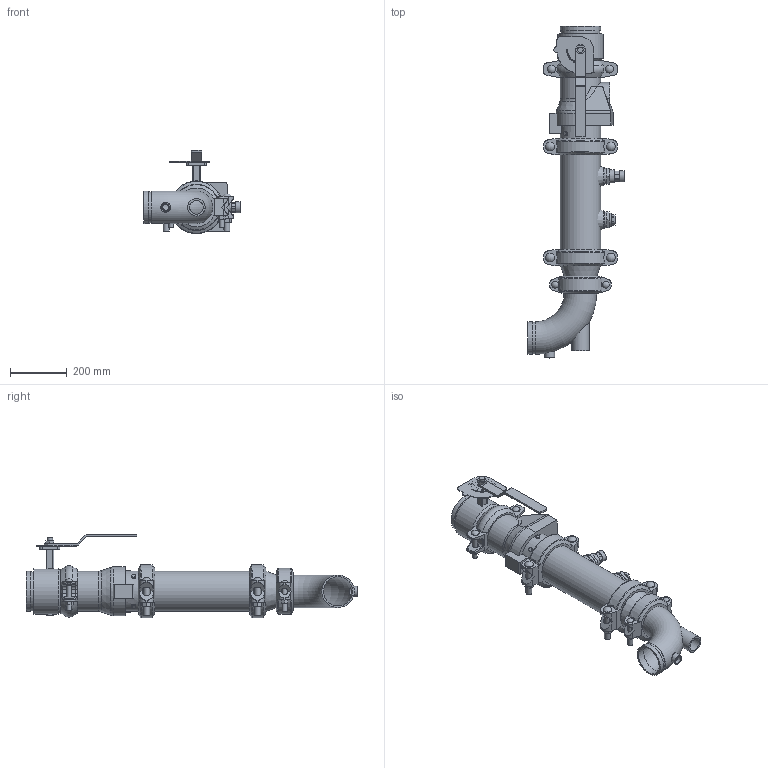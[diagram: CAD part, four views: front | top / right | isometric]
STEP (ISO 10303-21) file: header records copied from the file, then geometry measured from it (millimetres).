
FILE_DESCRIPTION(/* description */ ('VIC DVI PUMP DROP HORZ S/380G (OGSxOGS)','CAx-IF Rec.Pracs.---Representation and Presentation of Product Manufacturing Information (PMI)---4.0---2014-10-13'),/* implementation_level */ '2;1');
FILE_NAME(/* name */ 'C:\Users\kkamble\AppData\Roaming\Autodesk\ApplicationPlugins\Victaulic.Temp\A789\Victaulic_IPS_Horizontal DVI_CL 150_Series 380 (OGSxOGS)_924 (0.75)_05.0x04.0 (125x100).stp',/* time_stamp */ '2021-07-06T09:52:56+05:00',/* author */ ('Vjadhav'),/* organization */ ('Victaulic'),/* preprocessor_version */ 'ST-DEVELOPER v17.2',/* originating_system */ 'Autodesk Inventor 2019',/* authorisation */ '');
FILE_SCHEMA (('AP242_MANAGED_MODEL_BASED_3D_ENGINEERING_MIM_LF { 1 0 10303 442 1 1 4 }'));
Length unit declared in the file: inch
Products named in the file (11): 380_924 (0.75)-05.0x04.0; Pipe-05.0; 177N-05.0; 107N-05.0; 761-05.0; 924-04.0x0.75; 923-04.0x0.75; 779-05.0; 100G-04.0; 177N-04.0; 050-05.0x04.0
Assembly tree (11 placements, depth 2):
  380_924 (0.75)-05.0x04.0
    177N-05.0  x2
    Pipe-05.0
    107N-05.0
    761-05.0
    924-04.0x0.75
    923-04.0x0.75
    779-05.0
    100G-04.0
    177N-04.0
    050-05.0x04.0
Bounding box: 337.1 x 1165.22 x 293.24 mm (x, y, z)
Volume: 8591366.9 mm3; surface area: 1678380.2 mm2
Topology: 11 solids, 12 shells, 734 faces, 1930 edges, 1283 vertices
Faces by surface type: plane 397, cylinder 260, torus 27, cone 24, bspline 18, sphere 8
Full cylindrical faces by diameter (mm): 4.826 x10, 8.636 x4, 13.716 x4, 15.875 x4, 17.424 x2, 19.05 x2, 20.93 x1, 21.209 x4, 22.86 x1, 23.495 x2, 26.67 x4, 27.381 x2, 30.48 x4, 34.29 x1, 38.608 x1, 45.974 x4, 48.26 x1, 55.118 x1, 55.626 x2, 60.96 x1, 101.6 x1, 102.26 x3, 110.084 x3, 114.3 x6, 128.194 x4, 128.6 x3, 137.033 x7, 141.3 x19, 160.02 x1
Entity records: 22444 total; most frequent: CARTESIAN_POINT 5063, DIRECTION 3550, ORIENTED_EDGE 3346, EDGE_CURVE 1673, AXIS2_PLACEMENT_3D 1340, VERTEX_POINT 1111, LINE 870, VECTOR 870
